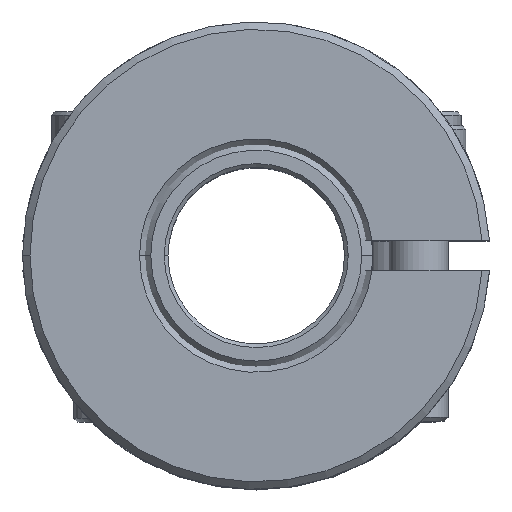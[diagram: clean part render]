
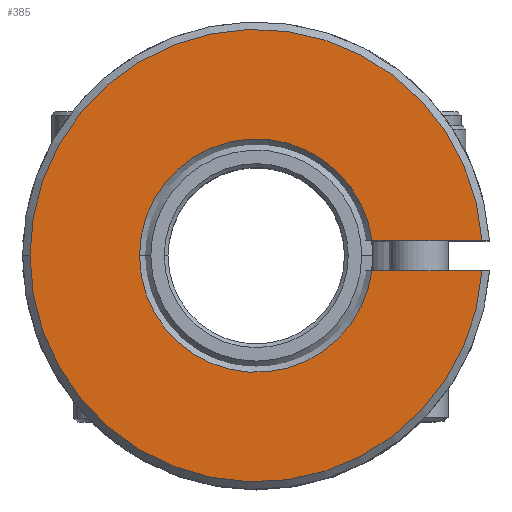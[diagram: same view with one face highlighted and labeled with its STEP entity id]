
A CAD part, top view. The second image highlights one B-rep face of the part: STEP entity #385.
In plain terms, the highlighted planar face has unit normal (0, 0, 1).
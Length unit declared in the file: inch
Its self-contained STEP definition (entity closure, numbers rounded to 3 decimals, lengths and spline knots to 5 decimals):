
#385 = ADVANCED_FACE( '', ( #649 ), #650, .T. );
#649 = FACE_OUTER_BOUND( '', #919, .T. );
#650 = PLANE( '', #920 );
#919 = EDGE_LOOP( '', ( #1852, #1853, #1854, #1855, #1856, #1857 ) );
#920 = AXIS2_PLACEMENT_3D( '', #1858, #1859, #1860 );
#1852 = ORIENTED_EDGE( '', *, *, #2161, .F. );
#1853 = ORIENTED_EDGE( '', *, *, #2198, .T. );
#1854 = ORIENTED_EDGE( '', *, *, #2199, .F. );
#1855 = ORIENTED_EDGE( '', *, *, #2149, .F. );
#1856 = ORIENTED_EDGE( '', *, *, #2192, .T. );
#1857 = ORIENTED_EDGE( '', *, *, #2196, .F. );
#1858 = CARTESIAN_POINT( '', ( 0., 0., 0.471 ) );
#1859 = DIRECTION( '', ( 0., 0., 1. ) );
#1860 = DIRECTION( '', ( 1., 0., 0. ) );
#2149 = EDGE_CURVE( '', #2609, #2605, #2611, .T. );
#2161 = EDGE_CURVE( '', #2631, #2627, #2633, .T. );
#2192 = EDGE_CURVE( '', #2609, #2681, #2683, .T. );
#2196 = EDGE_CURVE( '', #2627, #2681, #2689, .T. );
#2198 = EDGE_CURVE( '', #2631, #2691, #2692, .T. );
#2199 = EDGE_CURVE( '', #2605, #2691, #2693, .T. );
#2605 = VERTEX_POINT( '', #3387 );
#2609 = VERTEX_POINT( '', #3392 );
#2611 = CIRCLE( '', #3395, 0.3025 );
#2627 = VERTEX_POINT( '', #3423 );
#2631 = VERTEX_POINT( '', #3428 );
#2633 = CIRCLE( '', #3439, 0.156 );
#2681 = VERTEX_POINT( '', #3556 );
#2683 = LINE( '', #3567, #3568 );
#2689 = CIRCLE( '', #3585, 0.156 );
#2691 = VERTEX_POINT( '', #3587 );
#2692 = LINE( '', #3588, #3589 );
#2693 = CIRCLE( '', #3590, 0.3025 );
#3387 = CARTESIAN_POINT( '', ( -0.3025, 0., 0.471 ) );
#3392 = CARTESIAN_POINT( '', ( 0.30184, -0.02, 0.471 ) );
#3395 = AXIS2_PLACEMENT_3D( '', #4013, #4014, #4015 );
#3423 = CARTESIAN_POINT( '', ( -0.156, 0., 0.471 ) );
#3428 = CARTESIAN_POINT( '', ( 0.15471, 0.02, 0.471 ) );
#3439 = AXIS2_PLACEMENT_3D( '', #4035, #4036, #4037 );
#3556 = CARTESIAN_POINT( '', ( 0.15471, -0.02, 0.471 ) );
#3567 = CARTESIAN_POINT( '', ( 0., -0.02, 0.471 ) );
#3568 = VECTOR( '', #4087, 1. );
#3585 = AXIS2_PLACEMENT_3D( '', #4090, #4091, #4092 );
#3587 = CARTESIAN_POINT( '', ( 0.30184, 0.02, 0.471 ) );
#3588 = CARTESIAN_POINT( '', ( 0.51021, 0.02, 0.471 ) );
#3589 = VECTOR( '', #4096, 1. );
#3590 = AXIS2_PLACEMENT_3D( '', #4097, #4098, #4099 );
#4013 = CARTESIAN_POINT( '', ( 0., 0., 0.471 ) );
#4014 = DIRECTION( '', ( 0., 0., -1. ) );
#4015 = DIRECTION( '', ( -1., 0., 0. ) );
#4035 = CARTESIAN_POINT( '', ( 0., 0., 0.471 ) );
#4036 = DIRECTION( '', ( 0., 0., 1. ) );
#4037 = DIRECTION( '', ( -1., 0., 0. ) );
#4087 = DIRECTION( '', ( -1., 0., 0. ) );
#4090 = CARTESIAN_POINT( '', ( 0., 0., 0.471 ) );
#4091 = DIRECTION( '', ( 0., 0., 1. ) );
#4092 = DIRECTION( '', ( -1., 0., 0. ) );
#4096 = DIRECTION( '', ( 1., 0., 0. ) );
#4097 = CARTESIAN_POINT( '', ( 0., 0., 0.471 ) );
#4098 = DIRECTION( '', ( 0., 0., -1. ) );
#4099 = DIRECTION( '', ( -1., 0., 0. ) );
